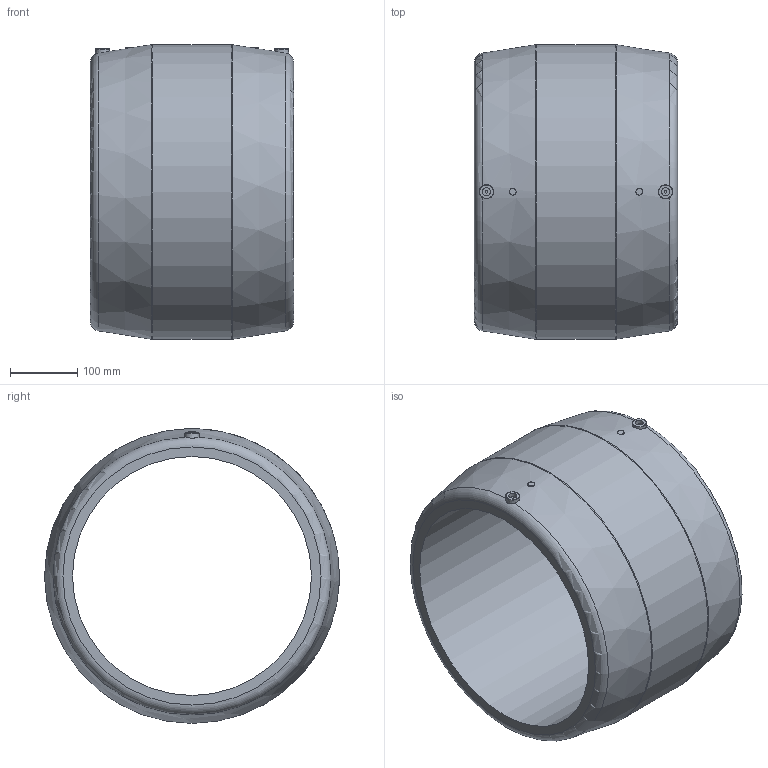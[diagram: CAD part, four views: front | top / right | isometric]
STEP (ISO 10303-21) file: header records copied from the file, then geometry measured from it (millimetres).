
FILE_DESCRIPTION(/* description */ ('Unknown'),/* implementation_level */ '2;1');
FILE_NAME(/* name */ 'MP355C',/* time_stamp */ '2021-02-11T09:03:54+01:00',/* author */ ('Unknown'),/* organization */ ('Unknown'),/* preprocessor_version */ 'ST-DEVELOPER v16.7',/* originating_system */ 'Solid Edge',/* authorisation */ 'Unknown');
FILE_SCHEMA (('AUTOMOTIVE_DESIGN {1 0 10303 214 3 1 1}'));
Length unit declared in the file: millimetre
Products named in the file (1): MP355C
Bounding box: 302 x 438 x 438 mm (x, y, z)
Volume: 13733274 mm3; surface area: 802547.2 mm2
Topology: 1 solids, 1 shells, 28 faces, 59 edges, 39 vertices
Faces by surface type: plane 10, cylinder 8, torus 6, cone 4
Full cylindrical faces by diameter (mm): 4 x2, 10 x2, 12 x2, 355 x1, 438 x1
Entity records: 652 total; most frequent: CARTESIAN_POINT 147, DIRECTION 106, ORIENTED_EDGE 60, EDGE_LOOP 54, FACE_BOUND 54, AXIS2_PLACEMENT_3D 53, EDGE_CURVE 30, VERTEX_POINT 28
